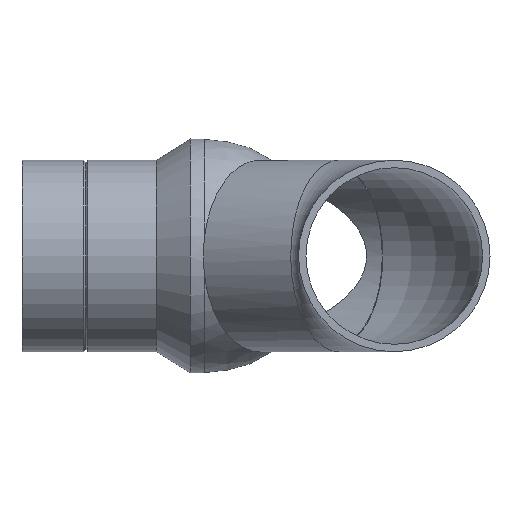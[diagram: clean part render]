
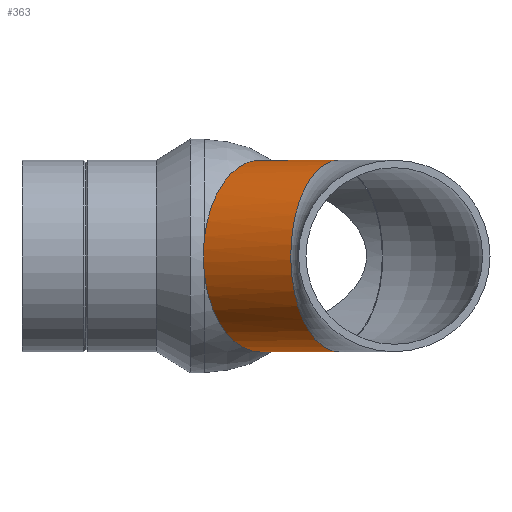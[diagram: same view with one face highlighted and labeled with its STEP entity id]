
A CAD part, front view. The second image highlights one B-rep face of the part: STEP entity #363.
In plain terms, the highlighted cylindrical face has radius 45 mm (diameter 90 mm), a full revolution.
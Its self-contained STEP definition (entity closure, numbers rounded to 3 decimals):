
#20=B_SPLINE_CURVE_WITH_KNOTS($,3,(#699,#700,#701,#702,#703,#704,#705,#706,
#707,#708),.UNSPECIFIED.,.F.,.F.,(4,2,2,2,4),(4.408,4.642,
5.293,5.943,6.177),.UNSPECIFIED.);
#21=B_SPLINE_CURVE_WITH_KNOTS($,3,(#710,#711,#712,#713,#714,#715,#716,#717,
#718,#719,#720,#721,#722,#723,#724,#725,#726,#727,#728,#729,#730,#731),
 .UNSPECIFIED.,.F.,.F.,(4,2,2,2,2,2,2,2,2,2,4),(18.154,18.681,
19.532,20.384,21.235,22.087,22.939,
23.791,24.638,25.485,26.284),
 .UNSPECIFIED.);
#22=B_SPLINE_CURVE_WITH_KNOTS($,3,(#734,#735,#736,#737,#738,#739,#740,#741,
#742,#743,#744,#745,#746,#747,#748,#749,#750,#751,#752,#753,#754,#755),
 .UNSPECIFIED.,.F.,.F.,(4,2,2,2,2,2,2,2,2,2,4),(0.896,1.695,
2.542,3.39,4.241,5.093,5.945,
6.797,7.648,8.499,9.027),
 .UNSPECIFIED.);
#28=ELLIPSE($,#420,90.,45.);
#46=CYLINDRICAL_SURFACE($,#419,45.);
#71=FACE_BOUND($,#145,.T.);
#96=FACE_OUTER_BOUND($,#144,.T.);
#144=EDGE_LOOP($,(#303));
#145=EDGE_LOOP($,(#304,#305,#306,#307));
#172=CIRCLE($,#393,45.);
#199=VERTEX_POINT($,#582);
#215=VERTEX_POINT($,#697);
#216=VERTEX_POINT($,#698);
#217=VERTEX_POINT($,#709);
#218=VERTEX_POINT($,#732);
#232=EDGE_CURVE($,#199,#199,#172,.T.);
#249=EDGE_CURVE($,#215,#216,#20,.T.);
#250=EDGE_CURVE($,#217,#215,#21,.T.);
#251=EDGE_CURVE($,#218,#217,#28,.T.);
#252=EDGE_CURVE($,#216,#218,#22,.T.);
#303=ORIENTED_EDGE($,*,*,#232,.T.);
#304=ORIENTED_EDGE($,*,*,#249,.F.);
#305=ORIENTED_EDGE($,*,*,#250,.F.);
#306=ORIENTED_EDGE($,*,*,#251,.F.);
#307=ORIENTED_EDGE($,*,*,#252,.F.);
#363=ADVANCED_FACE($,(#96,#71),#46,.T.);
#393=AXIS2_PLACEMENT_3D($,#583,#470,#471);
#419=AXIS2_PLACEMENT_3D($,#696,#522,#523);
#420=AXIS2_PLACEMENT_3D($,#733,#524,#525);
#470=DIRECTION('center_axis',(-0.866,0.5,0.));
#471=DIRECTION('ref_axis',(-0.5,-0.866,0.));
#522=DIRECTION('center_axis',(-0.866,0.5,0.));
#523=DIRECTION('ref_axis',(-0.5,-0.866,0.));
#524=DIRECTION('center_axis',(0.,1.,0.));
#525=DIRECTION('ref_axis',(-1.,0.,0.));
#582=CARTESIAN_POINT('',(148.849,-39.75,45.));
#583=CARTESIAN_POINT('Origin',(148.849,-39.75,0.));
#696=CARTESIAN_POINT('Origin',(148.849,-39.75,0.));
#697=CARTESIAN_POINT('',(85.815,-54.234,-9.147));
#698=CARTESIAN_POINT('',(85.815,-54.234,9.147));
#699=CARTESIAN_POINT('Ctrl Pts',(85.815,-54.234,-9.147));
#700=CARTESIAN_POINT('Ctrl Pts',(85.714,-54.372,-8.33));
#701=CARTESIAN_POINT('Ctrl Pts',(85.628,-54.491,-7.512));
#702=CARTESIAN_POINT('Ctrl Pts',(85.355,-54.869,-4.426));
#703=CARTESIAN_POINT('Ctrl Pts',(85.263,-55.,-2.169));
#704=CARTESIAN_POINT('Ctrl Pts',(85.263,-55.,2.169));
#705=CARTESIAN_POINT('Ctrl Pts',(85.355,-54.869,4.426));
#706=CARTESIAN_POINT('Ctrl Pts',(85.628,-54.491,7.512));
#707=CARTESIAN_POINT('Ctrl Pts',(85.714,-54.372,8.33));
#708=CARTESIAN_POINT('Ctrl Pts',(85.815,-54.234,9.147));
#709=CARTESIAN_POINT('',(124.473,0.,-39.122));
#710=CARTESIAN_POINT('Ctrl Pts',(124.473,0.,
-39.122));
#711=CARTESIAN_POINT('Ctrl Pts',(123.546,-1.326,-40.038));
#712=CARTESIAN_POINT('Ctrl Pts',(122.58,-2.706,-40.859));
#713=CARTESIAN_POINT('Ctrl Pts',(119.991,-6.4,-42.722));
#714=CARTESIAN_POINT('Ctrl Pts',(118.322,-8.776,-43.59));
#715=CARTESIAN_POINT('Ctrl Pts',(114.961,-13.549,-44.73));
#716=CARTESIAN_POINT('Ctrl Pts',(113.27,-15.947,-45.));
#717=CARTESIAN_POINT('Ctrl Pts',(109.992,-20.58,-45.));
#718=CARTESIAN_POINT('Ctrl Pts',(108.293,-22.976,-44.729));
#719=CARTESIAN_POINT('Ctrl Pts',(104.908,-27.737,-43.589));
#720=CARTESIAN_POINT('Ctrl Pts',(103.22,-30.103,-42.719));
#721=CARTESIAN_POINT('Ctrl Pts',(99.978,-34.639,-40.419));
#722=CARTESIAN_POINT('Ctrl Pts',(98.42,-36.811,-38.986));
#723=CARTESIAN_POINT('Ctrl Pts',(95.534,-40.827,-35.673));
#724=CARTESIAN_POINT('Ctrl Pts',(94.205,-42.669,-33.794));
#725=CARTESIAN_POINT('Ctrl Pts',(91.856,-45.921,-29.795));
#726=CARTESIAN_POINT('Ctrl Pts',(90.754,-47.443,-27.542));
#727=CARTESIAN_POINT('Ctrl Pts',(88.808,-50.125,-22.634));
#728=CARTESIAN_POINT('Ctrl Pts',(87.964,-51.285,-19.98));
#729=CARTESIAN_POINT('Ctrl Pts',(86.646,-53.096,-14.6));
#730=CARTESIAN_POINT('Ctrl Pts',(86.152,-53.773,-11.883));
#731=CARTESIAN_POINT('Ctrl Pts',(85.815,-54.234,-9.147));
#732=CARTESIAN_POINT('',(124.473,0.,39.122));
#733=CARTESIAN_POINT('Origin',(80.,0.,0.));
#734=CARTESIAN_POINT('Ctrl Pts',(85.815,-54.234,9.147));
#735=CARTESIAN_POINT('Ctrl Pts',(86.152,-53.773,11.883));
#736=CARTESIAN_POINT('Ctrl Pts',(86.646,-53.096,14.6));
#737=CARTESIAN_POINT('Ctrl Pts',(87.964,-51.285,19.98));
#738=CARTESIAN_POINT('Ctrl Pts',(88.808,-50.125,22.634));
#739=CARTESIAN_POINT('Ctrl Pts',(90.754,-47.443,27.542));
#740=CARTESIAN_POINT('Ctrl Pts',(91.856,-45.921,29.795));
#741=CARTESIAN_POINT('Ctrl Pts',(94.205,-42.669,33.794));
#742=CARTESIAN_POINT('Ctrl Pts',(95.534,-40.827,35.673));
#743=CARTESIAN_POINT('Ctrl Pts',(98.42,-36.811,38.986));
#744=CARTESIAN_POINT('Ctrl Pts',(99.978,-34.639,40.419));
#745=CARTESIAN_POINT('Ctrl Pts',(103.22,-30.103,42.719));
#746=CARTESIAN_POINT('Ctrl Pts',(104.908,-27.737,43.589));
#747=CARTESIAN_POINT('Ctrl Pts',(108.293,-22.976,44.729));
#748=CARTESIAN_POINT('Ctrl Pts',(109.992,-20.58,45.));
#749=CARTESIAN_POINT('Ctrl Pts',(113.27,-15.947,45.));
#750=CARTESIAN_POINT('Ctrl Pts',(114.961,-13.549,44.73));
#751=CARTESIAN_POINT('Ctrl Pts',(118.322,-8.776,43.59));
#752=CARTESIAN_POINT('Ctrl Pts',(119.991,-6.4,42.722));
#753=CARTESIAN_POINT('Ctrl Pts',(122.58,-2.706,40.859));
#754=CARTESIAN_POINT('Ctrl Pts',(123.546,-1.326,40.038));
#755=CARTESIAN_POINT('Ctrl Pts',(124.473,0.,
39.122));
